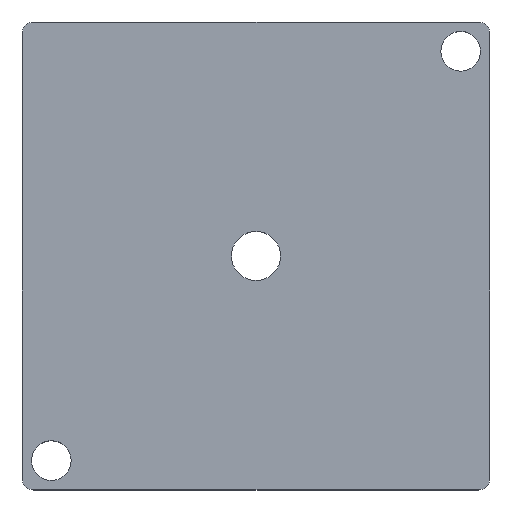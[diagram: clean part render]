
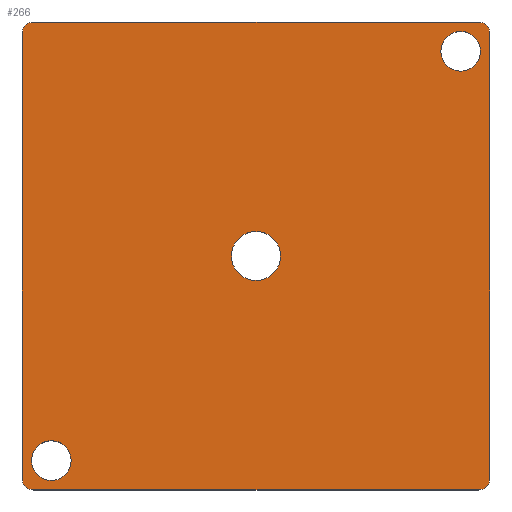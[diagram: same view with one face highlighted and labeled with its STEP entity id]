
A CAD part, top view. The second image highlights one B-rep face of the part: STEP entity #266.
In plain terms, the highlighted planar face has unit normal (0, 0, 1).
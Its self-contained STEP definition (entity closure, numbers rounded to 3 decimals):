
#18=FACE_BOUND('',#56,.T.);
#19=FACE_BOUND('',#57,.T.);
#20=FACE_BOUND('',#58,.T.);
#26=PLANE('',#316);
#39=FACE_OUTER_BOUND('',#55,.T.);
#55=EDGE_LOOP('',(#233,#234,#235,#236,#237,#238,#239,#240));
#56=EDGE_LOOP('',(#241,#242));
#57=EDGE_LOOP('',(#243,#244));
#58=EDGE_LOOP('',(#245,#246));
#65=LINE('',#430,#84);
#71=LINE('',#445,#90);
#76=LINE('',#469,#95);
#77=LINE('',#471,#96);
#84=VECTOR('',#347,10.);
#90=VECTOR('',#363,10.);
#95=VECTOR('',#392,10.);
#96=VECTOR('',#395,10.);
#97=CIRCLE('',#288,2.);
#105=CIRCLE('',#299,2.);
#106=CIRCLE('',#301,2.);
#107=CIRCLE('',#304,2.);
#108=CIRCLE('',#306,4.188);
#109=CIRCLE('',#307,4.188);
#110=CIRCLE('',#309,3.4);
#111=CIRCLE('',#310,3.4);
#112=CIRCLE('',#312,3.4);
#113=CIRCLE('',#313,3.4);
#114=VERTEX_POINT('',#400);
#115=VERTEX_POINT('',#401);
#127=VERTEX_POINT('',#429);
#128=VERTEX_POINT('',#433);
#129=VERTEX_POINT('',#437);
#130=VERTEX_POINT('',#438);
#131=VERTEX_POINT('',#443);
#132=VERTEX_POINT('',#447);
#133=VERTEX_POINT('',#451);
#134=VERTEX_POINT('',#452);
#135=VERTEX_POINT('',#457);
#136=VERTEX_POINT('',#458);
#137=VERTEX_POINT('',#463);
#138=VERTEX_POINT('',#464);
#139=EDGE_CURVE('',#114,#115,#97,.T.);
#153=EDGE_CURVE('',#115,#127,#65,.T.);
#155=EDGE_CURVE('',#127,#128,#105,.T.);
#157=EDGE_CURVE('',#129,#130,#106,.T.);
#161=EDGE_CURVE('',#131,#129,#71,.T.);
#162=EDGE_CURVE('',#132,#131,#107,.T.);
#164=EDGE_CURVE('',#133,#134,#108,.T.);
#165=EDGE_CURVE('',#134,#133,#109,.T.);
#167=EDGE_CURVE('',#135,#136,#110,.T.);
#168=EDGE_CURVE('',#136,#135,#111,.T.);
#170=EDGE_CURVE('',#137,#138,#112,.T.);
#171=EDGE_CURVE('',#138,#137,#113,.T.);
#173=EDGE_CURVE('',#130,#114,#76,.T.);
#174=EDGE_CURVE('',#128,#132,#77,.T.);
#233=ORIENTED_EDGE('',*,*,#139,.F.);
#234=ORIENTED_EDGE('',*,*,#173,.F.);
#235=ORIENTED_EDGE('',*,*,#157,.F.);
#236=ORIENTED_EDGE('',*,*,#161,.F.);
#237=ORIENTED_EDGE('',*,*,#162,.F.);
#238=ORIENTED_EDGE('',*,*,#174,.F.);
#239=ORIENTED_EDGE('',*,*,#155,.F.);
#240=ORIENTED_EDGE('',*,*,#153,.F.);
#241=ORIENTED_EDGE('',*,*,#164,.T.);
#242=ORIENTED_EDGE('',*,*,#165,.T.);
#243=ORIENTED_EDGE('',*,*,#167,.T.);
#244=ORIENTED_EDGE('',*,*,#168,.T.);
#245=ORIENTED_EDGE('',*,*,#170,.T.);
#246=ORIENTED_EDGE('',*,*,#171,.T.);
#266=ADVANCED_FACE('',(#39,#18,#19,#20),#26,.T.);
#288=AXIS2_PLACEMENT_3D('',#402,#321,#322);
#299=AXIS2_PLACEMENT_3D('',#434,#351,#352);
#301=AXIS2_PLACEMENT_3D('',#439,#356,#357);
#304=AXIS2_PLACEMENT_3D('',#448,#366,#367);
#306=AXIS2_PLACEMENT_3D('',#453,#371,#372);
#307=AXIS2_PLACEMENT_3D('',#454,#373,#374);
#309=AXIS2_PLACEMENT_3D('',#459,#378,#379);
#310=AXIS2_PLACEMENT_3D('',#460,#380,#381);
#312=AXIS2_PLACEMENT_3D('',#465,#385,#386);
#313=AXIS2_PLACEMENT_3D('',#466,#387,#388);
#316=AXIS2_PLACEMENT_3D('',#472,#396,#397);
#321=DIRECTION('center_axis',(0.,0.,-1.));
#322=DIRECTION('ref_axis',(-0.707,0.707,0.));
#347=DIRECTION('',(1.,0.,0.));
#351=DIRECTION('center_axis',(0.,0.,-1.));
#352=DIRECTION('ref_axis',(0.707,0.707,0.));
#356=DIRECTION('center_axis',(0.,0.,-1.));
#357=DIRECTION('ref_axis',(-0.707,-0.707,0.));
#363=DIRECTION('',(-1.,0.,0.));
#366=DIRECTION('center_axis',(0.,0.,-1.));
#367=DIRECTION('ref_axis',(0.707,-0.707,0.));
#371=DIRECTION('center_axis',(0.,0.,-1.));
#372=DIRECTION('ref_axis',(1.,0.,0.));
#373=DIRECTION('center_axis',(0.,0.,-1.));
#374=DIRECTION('ref_axis',(1.,0.,0.));
#378=DIRECTION('center_axis',(0.,0.,-1.));
#379=DIRECTION('ref_axis',(1.,0.,0.));
#380=DIRECTION('center_axis',(0.,0.,-1.));
#381=DIRECTION('ref_axis',(1.,0.,0.));
#385=DIRECTION('center_axis',(0.,0.,-1.));
#386=DIRECTION('ref_axis',(1.,0.,0.));
#387=DIRECTION('center_axis',(0.,0.,-1.));
#388=DIRECTION('ref_axis',(1.,0.,0.));
#392=DIRECTION('',(0.,1.,0.));
#395=DIRECTION('',(0.,-1.,0.));
#396=DIRECTION('center_axis',(0.,0.,1.));
#397=DIRECTION('ref_axis',(1.,0.,0.));
#400=CARTESIAN_POINT('',(-10.12,16.114,8.));
#401=CARTESIAN_POINT('',(-8.12,18.114,8.));
#402=CARTESIAN_POINT('Origin',(-8.12,16.114,8.));
#429=CARTESIAN_POINT('',(67.88,18.114,8.));
#430=CARTESIAN_POINT('',(69.88,18.114,8.));
#433=CARTESIAN_POINT('',(69.88,16.114,8.));
#434=CARTESIAN_POINT('Origin',(67.88,16.114,8.));
#437=CARTESIAN_POINT('',(-8.12,-61.886,8.));
#438=CARTESIAN_POINT('',(-10.12,-59.886,8.));
#439=CARTESIAN_POINT('Origin',(-8.12,-59.886,8.));
#443=CARTESIAN_POINT('',(67.88,-61.886,8.));
#445=CARTESIAN_POINT('',(-10.12,-61.886,8.));
#447=CARTESIAN_POINT('',(69.88,-59.886,8.));
#448=CARTESIAN_POINT('Origin',(67.88,-59.886,8.));
#451=CARTESIAN_POINT('',(34.068,-21.886,8.));
#452=CARTESIAN_POINT('',(25.692,-21.886,8.));
#453=CARTESIAN_POINT('Origin',(29.88,-21.886,8.));
#454=CARTESIAN_POINT('Origin',(29.88,-21.886,8.));
#457=CARTESIAN_POINT('',(-1.72,-56.886,8.));
#458=CARTESIAN_POINT('',(-8.52,-56.886,8.));
#459=CARTESIAN_POINT('Origin',(-5.12,-56.886,8.));
#460=CARTESIAN_POINT('Origin',(-5.12,-56.886,8.));
#463=CARTESIAN_POINT('',(68.28,13.114,8.));
#464=CARTESIAN_POINT('',(61.48,13.114,8.));
#465=CARTESIAN_POINT('Origin',(64.88,13.114,8.));
#466=CARTESIAN_POINT('Origin',(64.88,13.114,8.));
#469=CARTESIAN_POINT('',(-10.12,18.114,8.));
#471=CARTESIAN_POINT('',(69.88,-61.886,8.));
#472=CARTESIAN_POINT('Origin',(29.88,-21.886,8.));
